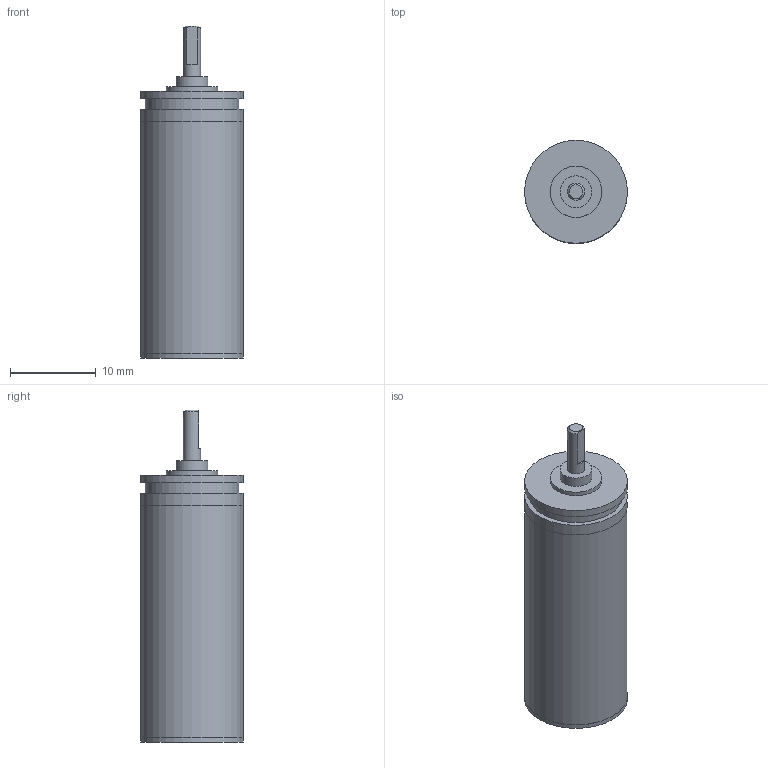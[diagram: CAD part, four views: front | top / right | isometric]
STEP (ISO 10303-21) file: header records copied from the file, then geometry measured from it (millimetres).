
FILE_DESCRIPTION(/* description */ (''),/* implementation_level */ '2;1');
FILE_NAME(/* name */ '12-3K_10.stp',/* time_stamp */ '2016-08-24T10:23:56+02:00',/* author */ ('DR. FRITZ FAULHABER GmbH & Co. KG'),/* organization */ ('DR. FRITZ FAULHABER GmbH & Co. KG'),/* preprocessor_version */ 'ST-DEVELOPER v16',/* originating_system */ 'SIEMENS PLM Software NX 10.0',/* authorisation */ '');
FILE_SCHEMA (('AUTOMOTIVE_DESIGN { 1 0 10303 214 3 1 1 1 }'));
Length unit declared in the file: millimetre
Products named in the file (1): H00000586_A
Bounding box: 12 x 12 x 38.7 mm (x, y, z)
Volume: 3466.7 mm3; surface area: 1560.8 mm2
Topology: 1 solids, 1 shells, 32 faces, 52 edges, 34 vertices
Faces by surface type: plane 16, cylinder 14, cone 2
Full cylindrical faces by diameter (mm): 2 x1, 2.48 x1, 2.6 x1, 3.7 x1, 5 x1, 6 x2, 10.88 x1, 11.99 x2, 12 x4
Entity records: 692 total; most frequent: DIRECTION 129, CARTESIAN_POINT 115, ORIENTED_EDGE 70, AXIS2_PLACEMENT_3D 63, EDGE_LOOP 59, FACE_BOUND 54, EDGE_CURVE 35, ADVANCED_FACE 32
